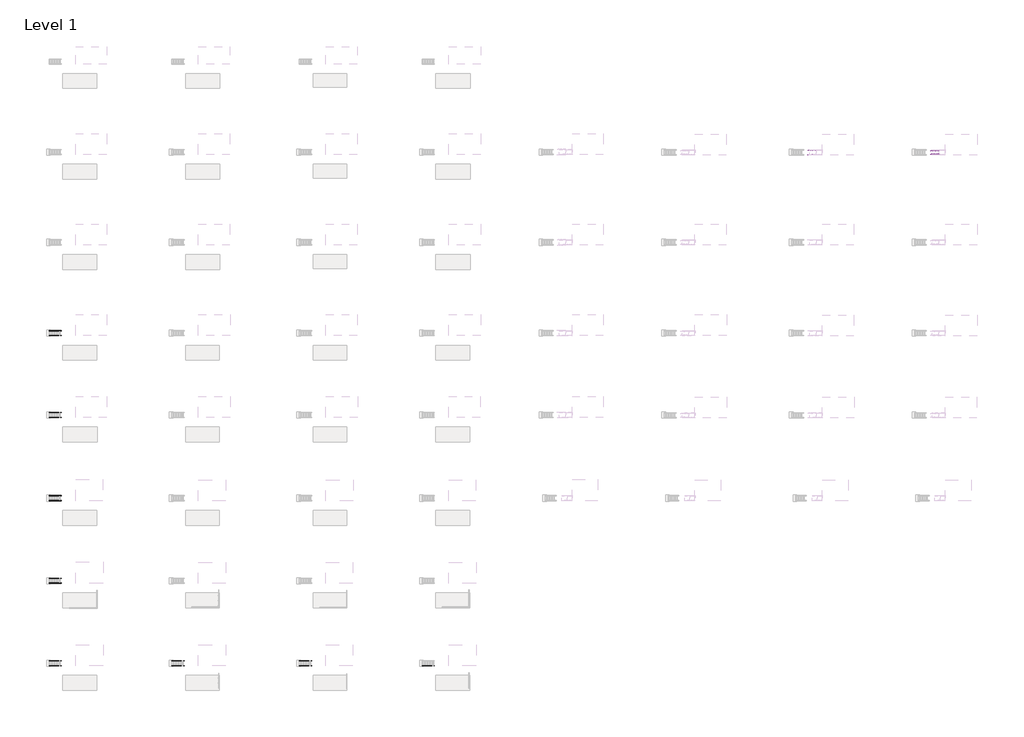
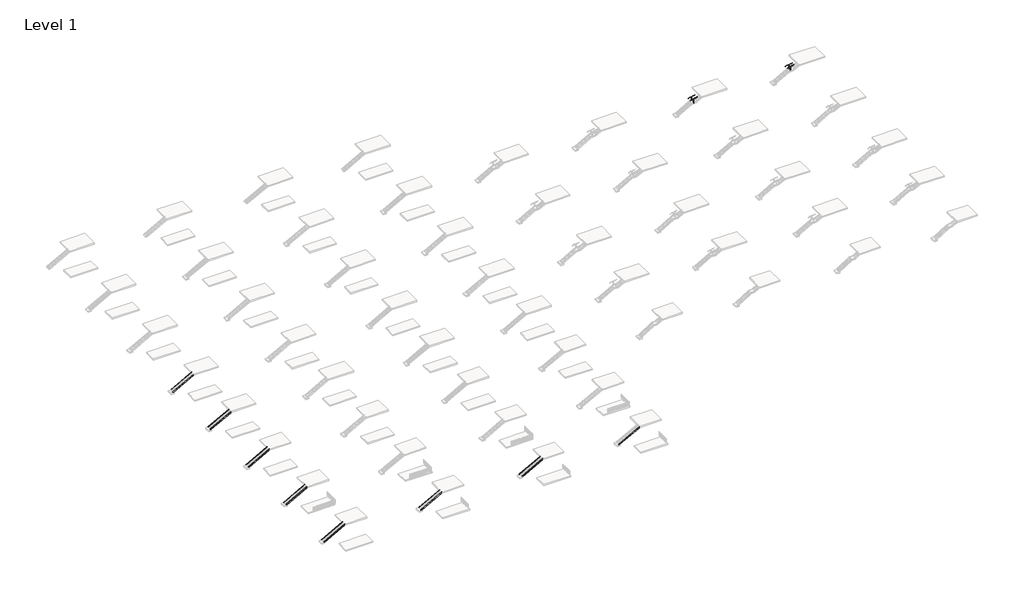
# One storey, part 24 of 26: 15 members, 4 railings.
"""IFC4 building model written with IfcOpenShell, lengths in millimetres."""

from ifc_helpers import new_model, si_unit, point, frame, frame_2d, origin, place, context, project, spatial, polyline, circle_curve, ellipse_curve, trimmed, segment, composite_curve, outline, extrude, faceted_brep, element, save
from ifc_brep_helpers import plane_surface, cylinder_surface, advanced_brep

model = new_model("IFC4")

# Units and contexts
model_context = context("Model", 3, world=origin())
ifc_project = project(units=[si_unit("LENGTHUNIT", "METRE", prefix="MILLI")], contexts=[model_context])

# Site, building, storey
site = spatial("IfcSite", under=ifc_project)
building = spatial("IfcBuilding", under=site)
storey = spatial("IfcBuildingStorey", under=building, Name="Level 1", Elevation=0.0)

# Members
placement = place(None, origin())
element("IfcMember", 1, ObjectType="Stringer - 2\" Width", at=placement, inside=storey, context=model_context, shape_type="SweptSolid", body=[
    extrude(outline(polyline([(177.1989729, -14498.2569957), (0.0, -14498.2569957), (0.0, -14213.1213612), (2753.9260175, -9164.2569957), (3086.6535184, -9164.2569957), (177.1989729, -14498.2569957)])), frame((0.0, -67879.4034511, 0.0), z_axis=(0.0, 1.0, 0.0), x_axis=(0.0, 0.0, 1.0)), (0.0, 0.0, 1.0), 50.8),
])
element("IfcMember", 2, ObjectType="Stringer - 2\" Width", at=placement, inside=storey, context=model_context, shape_type="SweptSolid", body=[
    extrude(outline(polyline([(177.1989729, -14498.2569957), (0.0, -14498.2569957), (0.0, -14213.1213612), (2753.9260175, -9164.2569957), (3086.6535184, -9164.2569957), (177.1989729, -14498.2569957)])), frame((0.0, -68844.6034511, 0.0), z_axis=(0.0, 1.0, 0.0), x_axis=(0.0, 0.0, 1.0)), (0.0, 0.0, 1.0), 50.8),
])
element("IfcMember", 3, ObjectType="Stringer - 2\" Width", at=placement, inside=storey, context=model_context, shape_type="SweptSolid", body=[
    extrude(outline(polyline([(177.1989729, -14498.2569957), (0.0, -14498.2569957), (0.0, -14213.1213612), (2753.9260175, -9164.2569957), (3086.6535184, -9164.2569957), (177.1989729, -14498.2569957)])), frame((0.0, -51279.2426165, 0.0), z_axis=(0.0, 1.0, 0.0), x_axis=(0.0, 0.0, 1.0)), (0.0, 0.0, 1.0), 50.8),
])
element("IfcMember", 4, ObjectType="Stringer - 2\" Width", at=placement, inside=storey, context=model_context, shape_type="SweptSolid", body=[
    extrude(outline(polyline([(177.1989729, -14498.2569957), (0.0, -14498.2569957), (0.0, -14213.1213612), (2753.9260175, -9164.2569957), (3086.6535184, -9164.2569957), (177.1989729, -14498.2569957)])), frame((0.0, -52244.4426165, 0.0), z_axis=(0.0, 1.0, 0.0), x_axis=(0.0, 0.0, 1.0)), (0.0, 0.0, 1.0), 50.8),
])
element("IfcMember", 5, ObjectType="Stringer - 2\" Width", at=placement, inside=storey, context=model_context, shape_type="SweptSolid", body=[
    extrude(outline(polyline([(177.1989729, -14498.2569957), (0.0, -14498.2569957), (0.0, -14213.1213612), (2753.9260175, -9164.2569957), (3086.6535184, -9164.2569957), (177.1989729, -14498.2569957)])), frame((0.0, -34679.081782, 0.0), z_axis=(0.0, 1.0, 0.0), x_axis=(0.0, 0.0, 1.0)), (0.0, 0.0, 1.0), 50.8),
])
element("IfcMember", 6, ObjectType="Stringer - 2\" Width", at=placement, inside=storey, context=model_context, shape_type="SweptSolid", body=[
    extrude(outline(polyline([(177.1989729, -14498.2569957), (0.0, -14498.2569957), (0.0, -14213.1213612), (2753.9260175, -9164.2569957), (3086.6535184, -9164.2569957), (177.1989729, -14498.2569957)])), frame((0.0, -35644.281782, 0.0), z_axis=(0.0, 1.0, 0.0), x_axis=(0.0, 0.0, 1.0)), (0.0, 0.0, 1.0), 50.8),
])
element("IfcMember", 7, ObjectType="Stringer - 2\" Width", at=placement, inside=storey, context=model_context, shape_type="SweptSolid", body=[
    extrude(outline(polyline([(177.1989729, -14498.2569957), (0.0, -14498.2569957), (0.0, -14213.1213612), (2753.9260175, -9164.2569957), (3086.6535184, -9164.2569957), (177.1989729, -14498.2569957)])), frame((0.0, -17954.2990002, 0.0), z_axis=(0.0, 1.0, 0.0), x_axis=(0.0, 0.0, 1.0)), (0.0, 0.0, 1.0), 50.8),
])
element("IfcMember", 8, ObjectType="Stringer - 2\" Width", at=placement, inside=storey, context=model_context, shape_type="SweptSolid", body=[
    extrude(outline(polyline([(177.1989729, -14498.2569957), (0.0, -14498.2569957), (0.0, -14213.1213612), (2753.9260175, -9164.2569957), (3086.6535184, -9164.2569957), (177.1989729, -14498.2569957)])), frame((0.0, -18919.4990002, 0.0), z_axis=(0.0, 1.0, 0.0), x_axis=(0.0, 0.0, 1.0)), (0.0, 0.0, 1.0), 50.8),
])
element("IfcMember", 9, ObjectType="Stringer - 2\" Width", at=placement, inside=storey, context=model_context, shape_type="SweptSolid", body=[
    extrude(outline(polyline([(177.1989729, -14498.2569957), (0.0, -14498.2569957), (0.0, -14213.1213612), (2753.9260175, -9164.2569957), (3086.6535184, -9164.2569957), (177.1989729, -14498.2569957)])), frame((0.0, -1486.3855758, 0.0), z_axis=(0.0, 1.0, 0.0), x_axis=(0.0, 0.0, 1.0)), (0.0, 0.0, 1.0), 50.8),
])
element("IfcMember", 10, ObjectType="Stringer - 2\" Width", at=placement, inside=storey, context=model_context, shape_type="SweptSolid", body=[
    extrude(outline(polyline([(177.1989729, -14498.2569957), (0.0, -14498.2569957), (0.0, -14213.1213612), (2753.9260175, -9164.2569957), (3086.6535184, -9164.2569957), (177.1989729, -14498.2569957)])), frame((0.0, -2451.5855758, 0.0), z_axis=(0.0, 1.0, 0.0), x_axis=(0.0, 0.0, 1.0)), (0.0, 0.0, 1.0), 50.8),
])
element("IfcMember", 11, ObjectType="Stringer - 2\" Width", at=placement, inside=storey, context=model_context, shape_type="SweptSolid", body=[
    extrude(outline(polyline([(177.1989729, 10178.7167764), (0.0, 10178.7167764), (0.0, 10463.8524109), (2753.9260175, 15512.7167764), (3086.6535184, 15512.7167764), (177.1989729, 10178.7167764)])), frame((0.0, -67879.4034511, 0.0), z_axis=(0.0, 1.0, 0.0), x_axis=(0.0, 0.0, 1.0)), (0.0, 0.0, 1.0), 50.8),
])
element("IfcMember", 12, ObjectType="Stringer - 2\" Width", at=placement, inside=storey, context=model_context, shape_type="SweptSolid", body=[
    extrude(outline(polyline([(177.1989729, 10178.7167764), (0.0, 10178.7167764), (0.0, 10463.8524109), (2753.9260175, 15512.7167764), (3086.6535184, 15512.7167764), (177.1989729, 10178.7167764)])), frame((0.0, -68844.6034511, 0.0), z_axis=(0.0, 1.0, 0.0), x_axis=(0.0, 0.0, 1.0)), (0.0, 0.0, 1.0), 50.8),
])
element("IfcMember", 13, ObjectType="Stringer - 2\" Width", at=placement, inside=storey, context=model_context, shape_type="SweptSolid", body=[
    extrude(outline(polyline([(177.1989729, 35781.9167764), (0.0, 35781.9167764), (0.0, 36067.0524109), (2753.9260175, 41115.9167764), (3086.6535184, 41115.9167764), (177.1989729, 35781.9167764)])), frame((0.0, -67879.4034511, 0.0), z_axis=(0.0, 1.0, 0.0), x_axis=(0.0, 0.0, 1.0)), (0.0, 0.0, 1.0), 50.8),
])
element("IfcMember", 14, ObjectType="Stringer - 2\" Width", at=placement, inside=storey, context=model_context, shape_type="SweptSolid", body=[
    extrude(outline(polyline([(177.1989729, 35781.9167764), (0.0, 35781.9167764), (0.0, 36067.0524109), (2753.9260175, 41115.9167764), (3086.6535184, 41115.9167764), (177.1989729, 35781.9167764)])), frame((0.0, -68844.6034511, 0.0), z_axis=(0.0, 1.0, 0.0), x_axis=(0.0, 0.0, 1.0)), (0.0, 0.0, 1.0), 50.8),
])
element("IfcMember", 15, ObjectType="Stringer - 2\" Width", at=placement, inside=storey, context=model_context, shape_type="SweptSolid", body=[
    extrude(outline(polyline([(177.1989729, 60458.8905484), (0.0, 60458.8905484), (0.0, 60744.026183), (2753.9260175, 65792.8905484), (3086.6535184, 65792.8905484), (177.1989729, 60458.8905484)])), frame((0.0, -68844.6034511, 0.0), z_axis=(0.0, 1.0, 0.0), x_axis=(0.0, 0.0, 1.0)), (0.0, 0.0, 1.0), 50.8),
])

# Railings
element("IfcRailing", 16, ObjectType="VIVA-CUBE-CableNet Infill-Panel-Weld Mount-Stair-Landing", at=placement, inside=storey, context=model_context, shape_type="SolidModel", body=[
    advanced_brep(
    [(139648.3132982, 34790.7265585, 3385.2312362), (139648.3132982, 34841.5265585, 3385.2312362), (139378.8336349, 34841.5265585, 3231.2428571), (139378.8336349, 34790.7265585, 3231.2428571), (137924.2882982, 34790.7265585, 3009.6740933), (137924.2882982, 34841.5265585, 3009.6740933), (138312.0336349, 34790.7265585, 3231.2428571), (138312.0336349, 34841.5265585, 3231.2428571)],
    [
        (0, 1, ellipse_curve(frame((139648.3132982, 34816.1265585, 3385.2312362), z_axis=(1.0, 0.0, 0.0), x_axis=(0.0, 0.0, -1.0)), 29.2544781, 25.4)),
        (1, 0, ellipse_curve(frame((139648.3132982, 34816.1265585, 3385.2312362), z_axis=(1.0, 0.0, 0.0), x_axis=(0.0, 0.0, -1.0)), 29.2544781, 25.4)),
        (2, 3, ellipse_curve(frame((139378.8336349, 34816.1265585, 3231.2428571), z_axis=(0.9664996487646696, 0.0, 0.2566679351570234), x_axis=(0.25666793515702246, 0.0, -0.9664996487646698)), 26.2804027, 25.4)),
        (3, 0),
        (1, 2),
        (3, 2, ellipse_curve(frame((139378.8336349, 34816.1265585, 3231.2428571), z_axis=(0.9664996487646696, 0.0, 0.2566679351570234), x_axis=(0.25666793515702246, 0.0, -0.9664996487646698)), 26.2804027, 25.4)),
        (4, 5, ellipse_curve(frame((137924.2882982, 34816.1265585, 3009.6740933), z_axis=(-1.0, 0.0, 0.0), x_axis=(0.0, 0.0, -0.9999999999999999)), 29.2544781, 25.4)),
        (5, 4, ellipse_curve(frame((137924.2882982, 34816.1265585, 3009.6740933), z_axis=(-1.0, 0.0, 0.0), x_axis=(0.0, 0.0, -0.9999999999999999)), 29.2544781, 25.4)),
        (4, 6),
        (6, 7, ellipse_curve(frame((138312.0336349, 34816.1265585, 3231.2428571), z_axis=(-0.966499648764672, 0.0, -0.25666793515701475), x_axis=(0.25666793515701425, 0.0, -0.9664996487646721)), 26.2804027, 25.4)),
        (7, 5),
        (7, 6, ellipse_curve(frame((138312.0336349, 34816.1265585, 3231.2428571), z_axis=(-0.966499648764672, 0.0, -0.25666793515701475), x_axis=(0.25666793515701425, 0.0, -0.9664996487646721)), 26.2804027, 25.4)),
        (6, 3),
        (2, 7),
    ],
    [
        plane_surface(frame((139648.3132982, 34816.1265585, 3414.4857143), z_axis=(1.0, 0.0, 0.0), x_axis=(0.0, 1.0, 0.0))),
        cylinder_surface(frame((139384.6902273, 34816.1265585, 3234.5894813), z_axis=(-0.8682431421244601, 0.0, -0.4961389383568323), x_axis=(0.0, 1.0, 0.0)), 25.4),
        plane_surface(frame((137924.2882982, 34816.1265585, 3038.9285714), z_axis=(-1.0, 0.0, 0.0), x_axis=(0.0, 1.0, 0.0))),
        cylinder_surface(frame((137936.8902273, 34816.1265585, 3016.8751956), z_axis=(-0.868243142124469, 0.0, -0.49613893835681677), x_axis=(0.0, 1.0, 0.0)), 25.4),
        cylinder_surface(frame((138305.2882982, 34816.1265585, 3231.2428571), z_axis=(-1.0, 0.0, 0.0), x_axis=(0.0, 1.0, 0.0)), 25.4),
    ],
    [
        (0, [[1, 2]]),
        (1, [[3, 4, -2, 5]]),
        (1, [[6, -5, -1, -4]]),
        (2, [[7, 8]]),
        (3, [[-7, 9, 10, 11]]),
        (3, [[-8, -11, 12, -9]]),
        (4, [[-10, 13, -3, 14]]),
        (4, [[-12, -14, -6, -13]]),
    ],
),
    extrude(outline(composite_curve([segment(trimmed(circle_curve(frame_2d((0.0, 7.0)), 7.0), [point((0.0, 14.0))], [point((0.0, 0.0))], False, "CARTESIAN"), True, "CONTINUOUS"), segment(trimmed(circle_curve(frame_2d((0.0, 7.0)), 7.0), [point((0.0, 0.0))], [point((0.0, 14.0))], False, "CARTESIAN"), True, "CONTINUOUS")], self_intersect=False)), frame((138786.2022377, 34901.8103842, 2972.3156836), z_axis=(0.0012555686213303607, 0.0, 0.999999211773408), x_axis=(0.999999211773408, 0.0, -0.0012555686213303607)), (0.0, 0.0, 1.0), 75.97),
    extrude(outline(composite_curve([segment(trimmed(circle_curve(frame_2d((34910.0583163, 3070.2618193)), 19.05), [point((34896.528728, 3056.8509005))], [point((34923.5879045, 3056.8509005))], True, "CARTESIAN"), True, "CONTINUOUS"), segment(polyline([(34923.5879045, 3056.8509005), (34924.6142941, 3055.8335135)]), True, "CONTINUOUS"), segment(trimmed(circle_curve(frame_2d((34923.5583163, 3054.7681916)), 1.5), [point((34924.6142941, 3055.8335135))], [point((34924.5437177, 3053.6372698))], False, "CARTESIAN"), True, "CONTINUOUS"), segment(trimmed(circle_curve(frame_2d((34910.0583163, 3070.2618193)), 22.05), [point((34924.5437177, 3053.6372698))], [point((34895.5729148, 3053.6372698))], False, "CARTESIAN"), True, "CONTINUOUS"), segment(trimmed(circle_curve(frame_2d((34896.5583163, 3054.7681916)), 1.5), [point((34895.5729148, 3053.6372698))], [point((34895.5023384, 3055.8335135))], False, "CARTESIAN"), True, "CONTINUOUS"), segment(polyline([(34895.5023384, 3055.8335135), (34896.528728, 3056.8509005)]), True, "CONTINUOUS")], self_intersect=False)), frame((138749.8508529, 0.0, 0.0), z_axis=(1.0, 0.0, 0.0), x_axis=(0.0, 1.0, 0.0)), (0.0, 0.0, 1.0), 74.5229187),
    extrude(outline(composite_curve([segment(trimmed(circle_curve(frame_2d((2999.1922796, 138786.2621412)), 12.5), [point((2999.1922796, 138773.7621412))], [point((2999.1922796, 138798.7621412))], False, "CARTESIAN"), True, "CONTINUOUS"), segment(trimmed(circle_curve(frame_2d((2999.1922796, 138786.2621412)), 12.5), [point((2999.1922796, 138798.7621412))], [point((2999.1922796, 138773.7621412))], False, "CARTESIAN"), True, "CONTINUOUS")], self_intersect=False)), frame((0.0, 34841.5265585, 0.0), z_axis=(0.0, 1.0, 0.0), x_axis=(0.0, 0.0, 1.0)), (0.0, 0.0, 1.0), 82.061346),
    extrude(outline(composite_curve([segment(trimmed(circle_curve(frame_2d((2999.1922796, 138786.2621412)), 12.5), [point((2999.1922796, 138798.7621412))], [point((2999.1922796, 138773.7621412))], False, "CARTESIAN"), True, "CONTINUOUS"), segment(trimmed(circle_curve(frame_2d((2999.1922796, 138786.2621412)), 12.5), [point((2999.1922796, 138773.7621412))], [point((2999.1922796, 138798.7621412))], False, "CARTESIAN"), True, "CONTINUOUS")], self_intersect=False)), frame((0.0, 34783.1065585, 0.0), z_axis=(0.0, 1.0, 0.0), x_axis=(0.0, 0.0, 1.0)), (0.0, 0.0, 1.0), 7.62),
    faceted_brep([(138773.5976232, 34828.8265585, 3174.433132), (138773.5976232, 34820.0953085, 3174.433132), (138798.9976232, 34820.0953085, 3174.433132), (138798.9976232, 34828.8265585, 3174.433132), (138798.9976232, 34803.4265585, 3174.433132), (138798.9976232, 34812.1578085, 3174.433132), (138773.5976232, 34812.1578085, 3174.433132), (138773.5976232, 34803.4265585, 3174.433132), (138760.8976232, 34841.5265585, 3118.2776425), (138760.8976232, 34790.7265585, 3118.2776425), (138811.6976232, 34841.5265585, 3118.2776425), (138811.6976232, 34790.7265585, 3118.2776425), (138760.8976232, 34841.5265585, 2088.2428571), (138811.6976232, 34841.5265585, 2088.2428571), (138811.6976232, 34790.7265585, 2088.2428571), (138760.8976232, 34790.7265585, 2088.2428571), (138798.9976232, 34812.1578085, 3186.4734584), (138798.9976232, 34820.0953085, 3186.4734584), (138773.5976232, 34820.0953085, 3186.4734584), (138773.5976232, 34812.1578085, 3186.4734584)], [[[0, 1, 2, 3]], [[4, 5, 6, 7]], [[8, 9, 7, 6, 1, 0]], [[3, 10, 8, 0]], [[3, 2, 5, 4, 11, 10]], [[7, 9, 11, 4]], [[12, 13, 14, 15]], [[12, 8, 10, 13]], [[13, 10, 11, 14]], [[14, 11, 9, 15]], [[15, 9, 8, 12]], [[16, 17, 18, 19]], [[19, 6, 5, 16]], [[18, 1, 6, 19]], [[17, 2, 1, 18]], [[16, 5, 2, 17]]]),
    extrude(outline(composite_curve([segment(trimmed(circle_curve(frame_2d((34816.2232869, 3231.2861755)), 25.4345159), [point((34803.659484, 3209.1713512))], [point((34828.6185206, 3209.0764304))], True, "CARTESIAN"), True, "CONTINUOUS"), segment(trimmed(circle_curve(frame_2d((34829.8631737, 3206.5739456)), 2.7949225), [point((34828.6185206, 3209.0764304))], [point((34831.3404788, 3204.2013603))], False, "CARTESIAN"), True, "CONTINUOUS"), segment(trimmed(circle_curve(frame_2d((34816.0898238, 3232.0488022)), 31.75), [point((34831.3404788, 3204.2013603))], [point((34799.8235865, 3204.7821187))], False, "CARTESIAN"), True, "CONTINUOUS"), segment(trimmed(circle_curve(frame_2d((34802.1119263, 3206.6530378)), 2.9558141), [point((34799.8235865, 3204.7821187))], [point((34803.659484, 3209.1713512))], False, "CARTESIAN"), True, "CONTINUOUS")], self_intersect=False)), frame((138741.0602232, 0.0, 0.0), z_axis=(1.0, 0.0, 0.0), x_axis=(0.0, 1.0, 0.0)), (0.0, 0.0, 1.0), 90.4748),
    extrude(outline(composite_curve([segment(trimmed(circle_curve(frame_2d((3186.1434593, 138759.2297084)), 14.3679149), [point((3200.5113742, 138759.2297084))], [point((3186.1434593, 138773.5976232))], True, "CARTESIAN"), True, "CONTINUOUS"), segment(trimmed(circle_curve(frame_2d((3186.1434593, 138786.2976232)), 12.7), [point((3186.1434593, 138773.5976232))], [point((3186.1434593, 138798.9976232))], False, "CARTESIAN"), True, "CONTINUOUS"), segment(trimmed(circle_curve(frame_2d((3186.1434593, 138813.3655381)), 14.3679149), [point((3186.1434593, 138798.9976232))], [point((3200.5113742, 138813.3655381))], True, "CARTESIAN"), True, "CONTINUOUS"), segment(polyline([(3200.5113742, 138813.3655381), (3200.5113742, 138759.2297084)]), True, "CONTINUOUS")], self_intersect=False)), frame((0.0, 34813.5865585, 0.0), z_axis=(0.0, 1.0, 0.0), x_axis=(0.0, 0.0, 1.0)), (0.0, 0.0, 1.0), 5.08),
])
element("IfcRailing", 17, ObjectType="VIVA-CUBE-CableNet Infill-Panel-Core Mount-Stair-Landing", at=placement, inside=storey, context=model_context, shape_type="SolidModel", body=[
    advanced_brep(
    [(162601.2620703, 34727.2265585, 3009.6740933), (162601.2620703, 34778.0265585, 3009.6740933), (162989.007407, 34727.2265585, 3231.2428571), (162989.007407, 34778.0265585, 3231.2428571), (164325.2870703, 34727.2265585, 3385.2312362), (164325.2870703, 34778.0265585, 3385.2312362), (164055.807407, 34778.0265585, 3231.2428571), (164055.807407, 34727.2265585, 3231.2428571)],
    [
        (0, 1, ellipse_curve(frame((162601.2620703, 34752.6265585, 3009.6740933), z_axis=(-1.0, 0.0, 0.0), x_axis=(0.0, 0.0, -1.0)), 29.2544781, 25.4)),
        (1, 0, ellipse_curve(frame((162601.2620703, 34752.6265585, 3009.6740933), z_axis=(-1.0, 0.0, 0.0), x_axis=(0.0, 0.0, -1.0)), 29.2544781, 25.4)),
        (0, 2),
        (2, 3, ellipse_curve(frame((162989.007407, 34752.6265585, 3231.2428571), z_axis=(-0.9664996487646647, 0.0, -0.25666793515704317), x_axis=(0.25666793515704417, 0.0, -0.9664996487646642)), 26.2804027, 25.4)),
        (3, 1),
        (3, 2, ellipse_curve(frame((162989.007407, 34752.6265585, 3231.2428571), z_axis=(-0.9664996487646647, 0.0, -0.25666793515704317), x_axis=(0.25666793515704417, 0.0, -0.9664996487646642)), 26.2804027, 25.4)),
        (4, 5, ellipse_curve(frame((164325.2870703, 34752.6265585, 3385.2312362), z_axis=(1.0, 0.0, 0.0), x_axis=(0.0, 0.0, -1.0)), 29.2544781, 25.4)),
        (5, 4, ellipse_curve(frame((164325.2870703, 34752.6265585, 3385.2312362), z_axis=(1.0, 0.0, 0.0), x_axis=(0.0, 0.0, -1.0)), 29.2544781, 25.4)),
        (6, 7, ellipse_curve(frame((164055.807407, 34752.6265585, 3231.2428571), z_axis=(0.966499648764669, 0.0, 0.25666793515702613), x_axis=(0.25666793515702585, 0.0, -0.9664996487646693)), 26.2804027, 25.4)),
        (7, 4),
        (5, 6),
        (7, 6, ellipse_curve(frame((164055.807407, 34752.6265585, 3231.2428571), z_axis=(0.966499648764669, 0.0, 0.25666793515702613), x_axis=(0.25666793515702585, 0.0, -0.9664996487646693)), 26.2804027, 25.4)),
        (2, 7),
        (6, 3),
    ],
    [
        plane_surface(frame((162601.2620703, 34752.6265585, 3038.9285714), z_axis=(-1.0, 0.0, 0.0), x_axis=(0.0, 1.0, 0.0))),
        cylinder_surface(frame((162613.8639993, 34752.6265585, 3016.8751956), z_axis=(-0.8682431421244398, 0.0, -0.4961389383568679), x_axis=(0.0, 1.0, 0.0)), 25.4),
        plane_surface(frame((164325.2870703, 34752.6265585, 3414.4857143), z_axis=(1.0, 0.0, 0.0), x_axis=(0.0, 1.0, 0.0))),
        cylinder_surface(frame((164061.6639993, 34752.6265585, 3234.5894813), z_axis=(-0.8682431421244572, 0.0, -0.49613893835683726), x_axis=(0.0, 1.0, 0.0)), 25.4),
        cylinder_surface(frame((162982.2620703, 34752.6265585, 3231.2428571), z_axis=(-1.0, 0.0, 0.0), x_axis=(0.0, 1.0, 0.0)), 25.4),
    ],
    [
        (0, [[1, 2]]),
        (1, [[-1, 3, 4, 5]]),
        (1, [[-2, -5, 6, -3]]),
        (2, [[7, 8]]),
        (3, [[9, 10, -8, 11]]),
        (3, [[12, -11, -7, -10]]),
        (4, [[-4, 13, -9, 14]]),
        (4, [[-6, -14, -12, -13]]),
    ],
),
    extrude(outline(composite_curve([segment(trimmed(circle_curve(frame_2d((0.0, 7.0)), 7.0), [point((0.0, 14.0))], [point((0.0, 0.0))], False, "CARTESIAN"), True, "CONTINUOUS"), segment(trimmed(circle_curve(frame_2d((0.0, 7.0)), 7.0), [point((0.0, 0.0))], [point((0.0, 14.0))], False, "CARTESIAN"), True, "CONTINUOUS")], self_intersect=False)), frame((163463.3731308, 34666.9427327, 2972.3156836), z_axis=(-0.0012555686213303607, 0.0, 0.999999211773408), x_axis=(-0.999999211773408, 0.0, -0.0012555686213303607)), (0.0, 0.0, 1.0), 75.97),
    extrude(outline(composite_curve([segment(polyline([(34672.2243889, 3056.8509005), (34673.2507785, 3055.8335135)]), True, "CONTINUOUS"), segment(trimmed(circle_curve(frame_2d((34672.1948007, 3054.7681916)), 1.5), [point((34673.2507785, 3055.8335135))], [point((34673.1802021, 3053.6372698))], False, "CARTESIAN"), True, "CONTINUOUS"), segment(trimmed(circle_curve(frame_2d((34658.6948007, 3070.2618193)), 22.05), [point((34673.1802021, 3053.6372698))], [point((34644.2093992, 3053.6372698))], False, "CARTESIAN"), True, "CONTINUOUS"), segment(trimmed(circle_curve(frame_2d((34645.1948007, 3054.7681916)), 1.5), [point((34644.2093992, 3053.6372698))], [point((34644.1388228, 3055.8335135))], False, "CARTESIAN"), True, "CONTINUOUS"), segment(polyline([(34644.1388228, 3055.8335135), (34645.1652124, 3056.8509005)]), True, "CONTINUOUS"), segment(trimmed(circle_curve(frame_2d((34658.6948007, 3070.2618193)), 19.05), [point((34645.1652124, 3056.8509005))], [point((34672.2243889, 3056.8509005))], True, "CARTESIAN"), True, "CONTINUOUS")], self_intersect=False)), frame((163425.2015969, 0.0, 0.0), z_axis=(1.0, 0.0, 0.0), x_axis=(0.0, 1.0, 0.0)), (0.0, 0.0, 1.0), 74.5229187),
    extrude(outline(composite_curve([segment(trimmed(circle_curve(frame_2d((2999.1922796, 163463.3132273)), 12.5), [point((2999.1922796, 163475.8132273))], [point((2999.1922796, 163450.8132273))], False, "CARTESIAN"), True, "CONTINUOUS"), segment(trimmed(circle_curve(frame_2d((2999.1922796, 163463.3132273)), 12.5), [point((2999.1922796, 163450.8132273))], [point((2999.1922796, 163475.8132273))], False, "CARTESIAN"), True, "CONTINUOUS")], self_intersect=False)), frame((0.0, 34645.1652124, 0.0), z_axis=(0.0, 1.0, 0.0), x_axis=(0.0, 0.0, 1.0)), (0.0, 0.0, 1.0), 82.061346),
    extrude(outline(composite_curve([segment(trimmed(circle_curve(frame_2d((2999.1922796, 163463.3132273)), 12.5), [point((2999.1922796, 163450.8132273))], [point((2999.1922796, 163475.8132273))], False, "CARTESIAN"), True, "CONTINUOUS"), segment(trimmed(circle_curve(frame_2d((2999.1922796, 163463.3132273)), 12.5), [point((2999.1922796, 163475.8132273))], [point((2999.1922796, 163450.8132273))], False, "CARTESIAN"), True, "CONTINUOUS")], self_intersect=False)), frame((0.0, 34778.0265585, 0.0), z_axis=(0.0, 1.0, 0.0), x_axis=(0.0, 0.0, 1.0)), (0.0, 0.0, 1.0), 7.62),
    extrude(outline(composite_curve([segment(trimmed(circle_curve(frame_2d((163463.2777453, 34752.6265585)), 63.5), [point((163463.2777453, 34816.1265585))], [point((163463.2777453, 34689.1265585))], False, "CARTESIAN"), True, "CONTINUOUS"), segment(trimmed(circle_curve(frame_2d((163463.2777453, 34752.6265585)), 63.5), [point((163463.2777453, 34689.1265585))], [point((163463.2777453, 34816.1265585))], False, "CARTESIAN"), True, "CONTINUOUS")], self_intersect=False), holes=[composite_curve([segment(trimmed(circle_curve(frame_2d((163427.8080014, 34788.0963024)), 4.7625), [point((163427.8080014, 34792.8588024))], [point((163427.8080014, 34783.3338024))], True, "CARTESIAN"), True, "CONTINUOUS"), segment(trimmed(circle_curve(frame_2d((163427.8080014, 34788.0963024)), 4.7625), [point((163427.8080014, 34783.3338024))], [point((163427.8080014, 34792.8588024))], True, "CARTESIAN"), True, "CONTINUOUS")], self_intersect=False), composite_curve([segment(trimmed(circle_curve(frame_2d((163427.8080014, 34717.1568146)), 4.7625), [point((163427.8080014, 34721.9193146))], [point((163427.8080014, 34712.3943146))], True, "CARTESIAN"), True, "CONTINUOUS"), segment(trimmed(circle_curve(frame_2d((163427.8080014, 34717.1568146)), 4.7625), [point((163427.8080014, 34712.3943146))], [point((163427.8080014, 34721.9193146))], True, "CARTESIAN"), True, "CONTINUOUS")], self_intersect=False), composite_curve([segment(trimmed(circle_curve(frame_2d((163498.7474892, 34788.0963024)), 4.7625), [point((163498.7474892, 34792.8588024))], [point((163498.7474892, 34783.3338024))], True, "CARTESIAN"), True, "CONTINUOUS"), segment(trimmed(circle_curve(frame_2d((163498.7474892, 34788.0963024)), 4.7625), [point((163498.7474892, 34783.3338024))], [point((163498.7474892, 34792.8588024))], True, "CARTESIAN"), True, "CONTINUOUS")], self_intersect=False), composite_curve([segment(trimmed(circle_curve(frame_2d((163498.7474892, 34717.1568146)), 4.7625), [point((163498.7474892, 34721.9193146))], [point((163498.7474892, 34712.3943146))], True, "CARTESIAN"), True, "CONTINUOUS"), segment(trimmed(circle_curve(frame_2d((163498.7474892, 34717.1568146)), 4.7625), [point((163498.7474892, 34712.3943146))], [point((163498.7474892, 34721.9193146))], True, "CARTESIAN"), True, "CONTINUOUS")], self_intersect=False)]), frame((0.0, 0.0, 2177.1428571), z_axis=(0.0, 0.0, 1.0), x_axis=(1.0, 0.0, 0.0)), (0.0, 0.0, 1.0), 25.4),
    faceted_brep([(163475.9777453, 34739.9265585, 3174.433132), (163475.9777453, 34748.6578085, 3174.433132), (163450.5777453, 34748.6578085, 3174.433132), (163450.5777453, 34739.9265585, 3174.433132), (163450.5777453, 34765.3265585, 3174.433132), (163450.5777453, 34756.5953085, 3174.433132), (163475.9777453, 34756.5953085, 3174.433132), (163475.9777453, 34765.3265585, 3174.433132), (163488.6777453, 34727.2265585, 3118.2776425), (163488.6777453, 34778.0265585, 3118.2776425), (163437.8777453, 34727.2265585, 3118.2776425), (163437.8777453, 34778.0265585, 3118.2776425), (163488.6777453, 34727.2265585, 2088.2428571), (163437.8777453, 34727.2265585, 2088.2428571), (163437.8777453, 34778.0265585, 2088.2428571), (163488.6777453, 34778.0265585, 2088.2428571), (163450.5777453, 34756.5953085, 3186.4734584), (163450.5777453, 34748.6578085, 3186.4734584), (163475.9777453, 34748.6578085, 3186.4734584), (163475.9777453, 34756.5953085, 3186.4734584)], [[[0, 1, 2, 3]], [[4, 5, 6, 7]], [[8, 9, 7, 6, 1, 0]], [[3, 10, 8, 0]], [[3, 2, 5, 4, 11, 10]], [[7, 9, 11, 4]], [[12, 13, 14, 15]], [[12, 8, 10, 13]], [[13, 10, 11, 14]], [[14, 11, 9, 15]], [[15, 9, 8, 12]], [[16, 17, 18, 19]], [[19, 6, 5, 16]], [[18, 1, 6, 19]], [[17, 2, 1, 18]], [[16, 5, 2, 17]]]),
    extrude(outline(composite_curve([segment(trimmed(circle_curve(frame_2d((34766.6411907, 3206.6530378)), 2.9558141), [point((34765.093633, 3209.1713512))], [point((34768.9295304, 3204.7821187))], False, "CARTESIAN"), True, "CONTINUOUS"), segment(trimmed(circle_curve(frame_2d((34752.6632932, 3232.0488022)), 31.75), [point((34768.9295304, 3204.7821187))], [point((34737.4126382, 3204.2013603))], False, "CARTESIAN"), True, "CONTINUOUS"), segment(trimmed(circle_curve(frame_2d((34738.8899432, 3206.5739456)), 2.7949225), [point((34737.4126382, 3204.2013603))], [point((34740.1345964, 3209.0764304))], False, "CARTESIAN"), True, "CONTINUOUS"), segment(trimmed(circle_curve(frame_2d((34752.5298301, 3231.2861755)), 25.4345159), [point((34740.1345964, 3209.0764304))], [point((34765.093633, 3209.1713512))], True, "CARTESIAN"), True, "CONTINUOUS")], self_intersect=False)), frame((163418.0403453, 0.0, 0.0), z_axis=(1.0, 0.0, 0.0), x_axis=(0.0, 1.0, 0.0)), (0.0, 0.0, 1.0), 90.4748),
    extrude(outline(composite_curve([segment(polyline([(3200.5113742, 163490.3456602), (3200.5113742, 163436.2098304)]), True, "CONTINUOUS"), segment(trimmed(circle_curve(frame_2d((3186.1434593, 163436.2098304)), 14.3679149), [point((3200.5113742, 163436.2098304))], [point((3186.1434593, 163450.5777453))], True, "CARTESIAN"), True, "CONTINUOUS"), segment(trimmed(circle_curve(frame_2d((3186.1434593, 163463.2777453)), 12.7), [point((3186.1434593, 163450.5777453))], [point((3186.1434593, 163475.9777453))], False, "CARTESIAN"), True, "CONTINUOUS"), segment(trimmed(circle_curve(frame_2d((3186.1434593, 163490.3456602)), 14.3679149), [point((3186.1434593, 163475.9777453))], [point((3200.5113742, 163490.3456602))], True, "CARTESIAN"), True, "CONTINUOUS")], self_intersect=False)), frame((0.0, 34750.0865585, 0.0), z_axis=(0.0, 1.0, 0.0), x_axis=(0.0, 0.0, 1.0)), (0.0, 0.0, 1.0), 5.08),
])
element("IfcRailing", 18, ObjectType="VIVA-CUBE-CableNet Infill-Panel-Weld Mount-Stair-Landing", at=placement, inside=storey, context=model_context, shape_type="SolidModel", body=[
    advanced_brep(
    [(137924.2882982, 33876.3265585, 3009.6740933), (137924.2882982, 33927.1265585, 3009.6740933), (138312.0336349, 33876.3265585, 3231.2428571), (138312.0336349, 33927.1265585, 3231.2428571), (139648.3132982, 33876.3265585, 3385.2312362), (139648.3132982, 33927.1265585, 3385.2312362), (139378.8336349, 33927.1265585, 3231.2428571), (139378.8336349, 33876.3265585, 3231.2428571)],
    [
        (0, 1, ellipse_curve(frame((137924.2882982, 33901.7265585, 3009.6740933), z_axis=(-1.0, 0.0, 0.0), x_axis=(0.0, 0.0, -0.9999999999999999)), 29.2544781, 25.4)),
        (1, 0, ellipse_curve(frame((137924.2882982, 33901.7265585, 3009.6740933), z_axis=(-1.0, 0.0, 0.0), x_axis=(0.0, 0.0, -0.9999999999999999)), 29.2544781, 25.4)),
        (0, 2),
        (2, 3, ellipse_curve(frame((138312.0336349, 33901.7265585, 3231.2428571), z_axis=(-0.966499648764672, 0.0, -0.25666793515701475), x_axis=(0.25666793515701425, 0.0, -0.9664996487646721)), 26.2804027, 25.4)),
        (3, 1),
        (3, 2, ellipse_curve(frame((138312.0336349, 33901.7265585, 3231.2428571), z_axis=(-0.966499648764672, 0.0, -0.25666793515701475), x_axis=(0.25666793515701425, 0.0, -0.9664996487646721)), 26.2804027, 25.4)),
        (4, 5, ellipse_curve(frame((139648.3132982, 33901.7265585, 3385.2312362), z_axis=(1.0, 0.0, 0.0), x_axis=(0.0, 0.0, -1.0)), 29.2544781, 25.4)),
        (5, 4, ellipse_curve(frame((139648.3132982, 33901.7265585, 3385.2312362), z_axis=(1.0, 0.0, 0.0), x_axis=(0.0, 0.0, -1.0)), 29.2544781, 25.4)),
        (6, 7, ellipse_curve(frame((139378.8336349, 33901.7265585, 3231.2428571), z_axis=(0.9664996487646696, 0.0, 0.2566679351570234), x_axis=(0.25666793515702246, 0.0, -0.9664996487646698)), 26.2804027, 25.4)),
        (7, 4),
        (5, 6),
        (7, 6, ellipse_curve(frame((139378.8336349, 33901.7265585, 3231.2428571), z_axis=(0.9664996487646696, 0.0, 0.2566679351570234), x_axis=(0.25666793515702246, 0.0, -0.9664996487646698)), 26.2804027, 25.4)),
        (2, 7),
        (6, 3),
    ],
    [
        plane_surface(frame((137924.2882982, 33901.7265585, 3038.9285714), z_axis=(-1.0, 0.0, 0.0), x_axis=(0.0, 1.0, 0.0))),
        cylinder_surface(frame((137936.8902273, 33901.7265585, 3016.8751956), z_axis=(-0.868243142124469, 0.0, -0.49613893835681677), x_axis=(0.0, 1.0, 0.0)), 25.4),
        plane_surface(frame((139648.3132982, 33901.7265585, 3414.4857143), z_axis=(1.0, 0.0, 0.0), x_axis=(0.0, 1.0, 0.0))),
        cylinder_surface(frame((139384.6902273, 33901.7265585, 3234.5894813), z_axis=(-0.8682431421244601, 0.0, -0.4961389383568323), x_axis=(0.0, 1.0, 0.0)), 25.4),
        cylinder_surface(frame((138305.2882982, 33901.7265585, 3231.2428571), z_axis=(-1.0, 0.0, 0.0), x_axis=(0.0, 1.0, 0.0)), 25.4),
    ],
    [
        (0, [[1, 2]]),
        (1, [[-1, 3, 4, 5]]),
        (1, [[-2, -5, 6, -3]]),
        (2, [[7, 8]]),
        (3, [[9, 10, -8, 11]]),
        (3, [[12, -11, -7, -10]]),
        (4, [[-4, 13, -9, 14]]),
        (4, [[-6, -14, -12, -13]]),
    ],
),
    extrude(outline(composite_curve([segment(trimmed(circle_curve(frame_2d((0.0, -7.0)), 7.0), [point((0.0, -14.0))], [point((0.0, 0.0))], False, "CARTESIAN"), True, "CONTINUOUS"), segment(trimmed(circle_curve(frame_2d((0.0, -7.0)), 7.0), [point((0.0, 0.0))], [point((0.0, -14.0))], False, "CARTESIAN"), True, "CONTINUOUS")], self_intersect=False)), frame((138786.3993588, 33987.4103842, 2972.3156836), z_axis=(-0.0012555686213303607, 0.0, 0.999999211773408), x_axis=(-0.999999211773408, 0.0, -0.0012555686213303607)), (0.0, 0.0, 1.0), 75.97),
    extrude(outline(composite_curve([segment(trimmed(circle_curve(frame_2d((33995.6583163, 3070.2618193)), 19.05), [point((33982.128728, 3056.8509005))], [point((34009.1879045, 3056.8509005))], True, "CARTESIAN"), True, "CONTINUOUS"), segment(polyline([(34009.1879045, 3056.8509005), (34010.2142941, 3055.8335135)]), True, "CONTINUOUS"), segment(trimmed(circle_curve(frame_2d((34009.1583163, 3054.7681916)), 1.5), [point((34010.2142941, 3055.8335135))], [point((34010.1437177, 3053.6372698))], False, "CARTESIAN"), True, "CONTINUOUS"), segment(trimmed(circle_curve(frame_2d((33995.6583163, 3070.2618193)), 22.05), [point((34010.1437177, 3053.6372698))], [point((33981.1729148, 3053.6372698))], False, "CARTESIAN"), True, "CONTINUOUS"), segment(trimmed(circle_curve(frame_2d((33982.1583163, 3054.7681916)), 1.5), [point((33981.1729148, 3053.6372698))], [point((33981.1023384, 3055.8335135))], False, "CARTESIAN"), True, "CONTINUOUS"), segment(polyline([(33981.1023384, 3055.8335135), (33982.128728, 3056.8509005)]), True, "CONTINUOUS")], self_intersect=False)), frame((138748.2278249, 0.0, 0.0), z_axis=(1.0, 0.0, 0.0), x_axis=(0.0, 1.0, 0.0)), (0.0, 0.0, 1.0), 74.5229187),
    extrude(outline(composite_curve([segment(trimmed(circle_curve(frame_2d((2999.1922796, 138786.3394553)), 12.5), [point((2999.1922796, 138798.8394553))], [point((2999.1922796, 138773.8394553))], False, "CARTESIAN"), True, "CONTINUOUS"), segment(trimmed(circle_curve(frame_2d((2999.1922796, 138786.3394553)), 12.5), [point((2999.1922796, 138773.8394553))], [point((2999.1922796, 138798.8394553))], False, "CARTESIAN"), True, "CONTINUOUS")], self_intersect=False)), frame((0.0, 33927.1265585, 0.0), z_axis=(0.0, 1.0, 0.0), x_axis=(0.0, 0.0, 1.0)), (0.0, 0.0, 1.0), 82.061346),
    extrude(outline(composite_curve([segment(trimmed(circle_curve(frame_2d((2999.1922796, 138786.3394553)), 12.5), [point((2999.1922796, 138773.8394553))], [point((2999.1922796, 138798.8394553))], False, "CARTESIAN"), True, "CONTINUOUS"), segment(trimmed(circle_curve(frame_2d((2999.1922796, 138786.3394553)), 12.5), [point((2999.1922796, 138798.8394553))], [point((2999.1922796, 138773.8394553))], False, "CARTESIAN"), True, "CONTINUOUS")], self_intersect=False)), frame((0.0, 33868.7065585, 0.0), z_axis=(0.0, 1.0, 0.0), x_axis=(0.0, 0.0, 1.0)), (0.0, 0.0, 1.0), 7.62),
    faceted_brep([(138799.0039732, 33914.4265585, 3174.433132), (138773.6039732, 33914.4265585, 3174.433132), (138773.6039732, 33905.6953085, 3174.433132), (138799.0039732, 33905.6953085, 3174.433132), (138773.6039732, 33889.0265585, 3174.433132), (138799.0039732, 33889.0265585, 3174.433132), (138799.0039732, 33897.7578085, 3174.433132), (138773.6039732, 33897.7578085, 3174.433132), (138811.7039732, 33927.1265585, 3118.2776425), (138811.7039732, 33876.3265585, 3118.2776425), (138760.9039732, 33927.1265585, 3118.2776425), (138760.9039732, 33876.3265585, 3118.2776425), (138811.7039732, 33927.1265585, 2088.2428571), (138811.7039732, 33876.3265585, 2088.2428571), (138760.9039732, 33876.3265585, 2088.2428571), (138760.9039732, 33927.1265585, 2088.2428571), (138773.6039732, 33897.7578085, 3186.4734584), (138799.0039732, 33897.7578085, 3186.4734584), (138799.0039732, 33905.6953085, 3186.4734584), (138773.6039732, 33905.6953085, 3186.4734584)], [[[0, 1, 2, 3]], [[4, 5, 6, 7]], [[8, 0, 3, 6, 5, 9]], [[1, 0, 8, 10]], [[1, 10, 11, 4, 7, 2]], [[5, 4, 11, 9]], [[12, 13, 14, 15]], [[12, 15, 10, 8]], [[15, 14, 11, 10]], [[14, 13, 9, 11]], [[13, 12, 8, 9]], [[16, 17, 18, 19]], [[17, 16, 7, 6]], [[18, 17, 6, 3]], [[19, 18, 3, 2]], [[16, 19, 2, 7]]]),
    extrude(outline(composite_curve([segment(trimmed(circle_curve(frame_2d((33901.8232869, 3231.2861755)), 25.4345159), [point((33889.259484, 3209.1713512))], [point((33914.2185206, 3209.0764304))], True, "CARTESIAN"), True, "CONTINUOUS"), segment(trimmed(circle_curve(frame_2d((33915.4631737, 3206.5739456)), 2.7949225), [point((33914.2185206, 3209.0764304))], [point((33916.9404788, 3204.2013603))], False, "CARTESIAN"), True, "CONTINUOUS"), segment(trimmed(circle_curve(frame_2d((33901.6898238, 3232.0488022)), 31.75), [point((33916.9404788, 3204.2013603))], [point((33885.4235865, 3204.7821187))], False, "CARTESIAN"), True, "CONTINUOUS"), segment(trimmed(circle_curve(frame_2d((33887.7119263, 3206.6530378)), 2.9558141), [point((33885.4235865, 3204.7821187))], [point((33889.259484, 3209.1713512))], False, "CARTESIAN"), True, "CONTINUOUS")], self_intersect=False)), frame((138741.0665732, 0.0, 0.0), z_axis=(1.0, 0.0, 0.0), x_axis=(0.0, 1.0, 0.0)), (0.0, 0.0, 1.0), 90.4748),
    extrude(outline(composite_curve([segment(polyline([(3200.5113742, 138813.3718881), (3200.5113742, 138759.2360584)]), True, "CONTINUOUS"), segment(trimmed(circle_curve(frame_2d((3186.1434593, 138759.2360584)), 14.3679149), [point((3200.5113742, 138759.2360584))], [point((3186.1434593, 138773.6039732))], True, "CARTESIAN"), True, "CONTINUOUS"), segment(trimmed(circle_curve(frame_2d((3186.1434593, 138786.3039732)), 12.7), [point((3186.1434593, 138773.6039732))], [point((3186.1434593, 138799.0039732))], False, "CARTESIAN"), True, "CONTINUOUS"), segment(trimmed(circle_curve(frame_2d((3186.1434593, 138813.3718881)), 14.3679149), [point((3186.1434593, 138799.0039732))], [point((3200.5113742, 138813.3718881))], True, "CARTESIAN"), True, "CONTINUOUS")], self_intersect=False)), frame((0.0, 33899.1865585, 0.0), z_axis=(0.0, 1.0, 0.0), x_axis=(0.0, 0.0, 1.0)), (0.0, 0.0, 1.0), 5.08),
])
element("IfcRailing", 19, ObjectType="VIVA-CUBE-CableNet Infill-Panel-Core Mount-Stair-Landing", at=placement, inside=storey, context=model_context, shape_type="SolidModel", body=[
    advanced_brep(
    [(162601.2620703, 33990.6265585, 3009.6740933), (162601.2620703, 34041.4265585, 3009.6740933), (162989.007407, 33990.6265585, 3231.2428571), (162989.007407, 34041.4265585, 3231.2428571), (164325.2870703, 33990.6265585, 3385.2312362), (164325.2870703, 34041.4265585, 3385.2312362), (164055.807407, 34041.4265585, 3231.2428571), (164055.807407, 33990.6265585, 3231.2428571)],
    [
        (0, 1, ellipse_curve(frame((162601.2620703, 34016.0265585, 3009.6740933), z_axis=(-1.0, 0.0, 0.0), x_axis=(0.0, 0.0, -1.0)), 29.2544781, 25.4)),
        (1, 0, ellipse_curve(frame((162601.2620703, 34016.0265585, 3009.6740933), z_axis=(-1.0, 0.0, 0.0), x_axis=(0.0, 0.0, -1.0)), 29.2544781, 25.4)),
        (0, 2),
        (2, 3, ellipse_curve(frame((162989.007407, 34016.0265585, 3231.2428571), z_axis=(-0.9664996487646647, 0.0, -0.25666793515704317), x_axis=(0.25666793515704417, 0.0, -0.9664996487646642)), 26.2804027, 25.4)),
        (3, 1),
        (3, 2, ellipse_curve(frame((162989.007407, 34016.0265585, 3231.2428571), z_axis=(-0.9664996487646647, 0.0, -0.25666793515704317), x_axis=(0.25666793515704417, 0.0, -0.9664996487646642)), 26.2804027, 25.4)),
        (4, 5, ellipse_curve(frame((164325.2870703, 34016.0265585, 3385.2312362), z_axis=(1.0, 0.0, 0.0), x_axis=(0.0, 0.0, -1.0)), 29.2544781, 25.4)),
        (5, 4, ellipse_curve(frame((164325.2870703, 34016.0265585, 3385.2312362), z_axis=(1.0, 0.0, 0.0), x_axis=(0.0, 0.0, -1.0)), 29.2544781, 25.4)),
        (6, 7, ellipse_curve(frame((164055.807407, 34016.0265585, 3231.2428571), z_axis=(0.966499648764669, 0.0, 0.25666793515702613), x_axis=(0.25666793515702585, 0.0, -0.9664996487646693)), 26.2804027, 25.4)),
        (7, 4),
        (5, 6),
        (7, 6, ellipse_curve(frame((164055.807407, 34016.0265585, 3231.2428571), z_axis=(0.966499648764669, 0.0, 0.25666793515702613), x_axis=(0.25666793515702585, 0.0, -0.9664996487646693)), 26.2804027, 25.4)),
        (2, 7),
        (6, 3),
    ],
    [
        plane_surface(frame((162601.2620703, 34016.0265585, 3038.9285714), z_axis=(-1.0, 0.0, 0.0), x_axis=(0.0, 1.0, 0.0))),
        cylinder_surface(frame((162613.8639993, 34016.0265585, 3016.8751956), z_axis=(-0.8682431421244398, 0.0, -0.4961389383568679), x_axis=(0.0, 1.0, 0.0)), 25.4),
        plane_surface(frame((164325.2870703, 34016.0265585, 3414.4857143), z_axis=(1.0, 0.0, 0.0), x_axis=(0.0, 1.0, 0.0))),
        cylinder_surface(frame((164061.6639993, 34016.0265585, 3234.5894813), z_axis=(-0.8682431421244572, 0.0, -0.49613893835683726), x_axis=(0.0, 1.0, 0.0)), 25.4),
        cylinder_surface(frame((162982.2620703, 34016.0265585, 3231.2428571), z_axis=(-1.0, 0.0, 0.0), x_axis=(0.0, 1.0, 0.0)), 25.4),
    ],
    [
        (0, [[1, 2]]),
        (1, [[-1, 3, 4, 5]]),
        (1, [[-2, -5, 6, -3]]),
        (2, [[7, 8]]),
        (3, [[9, 10, -8, 11]]),
        (3, [[12, -11, -7, -10]]),
        (4, [[-4, 13, -9, 14]]),
        (4, [[-6, -14, -12, -13]]),
    ],
),
    extrude(outline(composite_curve([segment(trimmed(circle_curve(frame_2d((0.0, -7.0)), 7.0), [point((0.0, -14.0))], [point((0.0, 0.0))], False, "CARTESIAN"), True, "CONTINUOUS"), segment(trimmed(circle_curve(frame_2d((0.0, -7.0)), 7.0), [point((0.0, 0.0))], [point((0.0, -14.0))], False, "CARTESIAN"), True, "CONTINUOUS")], self_intersect=False)), frame((163463.3731308, 34101.7103842, 2972.3156836), z_axis=(-0.0012555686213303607, 0.0, 0.999999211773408), x_axis=(-0.999999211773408, 0.0, -0.0012555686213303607)), (0.0, 0.0, 1.0), 75.97),
    extrude(outline(composite_curve([segment(trimmed(circle_curve(frame_2d((34109.9583163, 3070.2618193)), 19.05), [point((34096.428728, 3056.8509005))], [point((34123.4879045, 3056.8509005))], True, "CARTESIAN"), True, "CONTINUOUS"), segment(polyline([(34123.4879045, 3056.8509005), (34124.5142941, 3055.8335135)]), True, "CONTINUOUS"), segment(trimmed(circle_curve(frame_2d((34123.4583163, 3054.7681916)), 1.5), [point((34124.5142941, 3055.8335135))], [point((34124.4437177, 3053.6372698))], False, "CARTESIAN"), True, "CONTINUOUS"), segment(trimmed(circle_curve(frame_2d((34109.9583163, 3070.2618193)), 22.05), [point((34124.4437177, 3053.6372698))], [point((34095.4729148, 3053.6372698))], False, "CARTESIAN"), True, "CONTINUOUS"), segment(trimmed(circle_curve(frame_2d((34096.4583163, 3054.7681916)), 1.5), [point((34095.4729148, 3053.6372698))], [point((34095.4023384, 3055.8335135))], False, "CARTESIAN"), True, "CONTINUOUS"), segment(polyline([(34095.4023384, 3055.8335135), (34096.428728, 3056.8509005)]), True, "CONTINUOUS")], self_intersect=False)), frame((163425.2015969, 0.0, 0.0), z_axis=(1.0, 0.0, 0.0), x_axis=(0.0, 1.0, 0.0)), (0.0, 0.0, 1.0), 74.5229187),
    extrude(outline(composite_curve([segment(trimmed(circle_curve(frame_2d((2999.1922796, 163463.3132273)), 12.5), [point((2999.1922796, 163475.8132273))], [point((2999.1922796, 163450.8132273))], False, "CARTESIAN"), True, "CONTINUOUS"), segment(trimmed(circle_curve(frame_2d((2999.1922796, 163463.3132273)), 12.5), [point((2999.1922796, 163450.8132273))], [point((2999.1922796, 163475.8132273))], False, "CARTESIAN"), True, "CONTINUOUS")], self_intersect=False)), frame((0.0, 34041.4265585, 0.0), z_axis=(0.0, 1.0, 0.0), x_axis=(0.0, 0.0, 1.0)), (0.0, 0.0, 1.0), 82.061346),
    extrude(outline(composite_curve([segment(trimmed(circle_curve(frame_2d((2999.1922796, 163463.3132273)), 12.5), [point((2999.1922796, 163450.8132273))], [point((2999.1922796, 163475.8132273))], False, "CARTESIAN"), True, "CONTINUOUS"), segment(trimmed(circle_curve(frame_2d((2999.1922796, 163463.3132273)), 12.5), [point((2999.1922796, 163475.8132273))], [point((2999.1922796, 163450.8132273))], False, "CARTESIAN"), True, "CONTINUOUS")], self_intersect=False)), frame((0.0, 33983.0065585, 0.0), z_axis=(0.0, 1.0, 0.0), x_axis=(0.0, 0.0, 1.0)), (0.0, 0.0, 1.0), 7.62),
    extrude(outline(composite_curve([segment(trimmed(circle_curve(frame_2d((163463.2777453, 34016.0265585)), 63.5), [point((163463.2777453, 33952.5265585))], [point((163463.2777453, 34079.5265585))], False, "CARTESIAN"), True, "CONTINUOUS"), segment(trimmed(circle_curve(frame_2d((163463.2777453, 34016.0265585)), 63.5), [point((163463.2777453, 34079.5265585))], [point((163463.2777453, 33952.5265585))], False, "CARTESIAN"), True, "CONTINUOUS")], self_intersect=False), holes=[composite_curve([segment(trimmed(circle_curve(frame_2d((163427.8080014, 33980.5568146)), 4.7625), [point((163427.8080014, 33975.7943146))], [point((163427.8080014, 33985.3193146))], True, "CARTESIAN"), True, "CONTINUOUS"), segment(trimmed(circle_curve(frame_2d((163427.8080014, 33980.5568146)), 4.7625), [point((163427.8080014, 33985.3193146))], [point((163427.8080014, 33975.7943146))], True, "CARTESIAN"), True, "CONTINUOUS")], self_intersect=False), composite_curve([segment(trimmed(circle_curve(frame_2d((163427.8080014, 34051.4963024)), 4.7625), [point((163427.8080014, 34046.7338024))], [point((163427.8080014, 34056.2588024))], True, "CARTESIAN"), True, "CONTINUOUS"), segment(trimmed(circle_curve(frame_2d((163427.8080014, 34051.4963024)), 4.7625), [point((163427.8080014, 34056.2588024))], [point((163427.8080014, 34046.7338024))], True, "CARTESIAN"), True, "CONTINUOUS")], self_intersect=False), composite_curve([segment(trimmed(circle_curve(frame_2d((163498.7474892, 33980.5568146)), 4.7625), [point((163498.7474892, 33975.7943146))], [point((163498.7474892, 33985.3193146))], True, "CARTESIAN"), True, "CONTINUOUS"), segment(trimmed(circle_curve(frame_2d((163498.7474892, 33980.5568146)), 4.7625), [point((163498.7474892, 33985.3193146))], [point((163498.7474892, 33975.7943146))], True, "CARTESIAN"), True, "CONTINUOUS")], self_intersect=False), composite_curve([segment(trimmed(circle_curve(frame_2d((163498.7474892, 34051.4963024)), 4.7625), [point((163498.7474892, 34046.7338024))], [point((163498.7474892, 34056.2588024))], True, "CARTESIAN"), True, "CONTINUOUS"), segment(trimmed(circle_curve(frame_2d((163498.7474892, 34051.4963024)), 4.7625), [point((163498.7474892, 34056.2588024))], [point((163498.7474892, 34046.7338024))], True, "CARTESIAN"), True, "CONTINUOUS")], self_intersect=False)]), frame((0.0, 0.0, 2177.1428571), z_axis=(0.0, 0.0, 1.0), x_axis=(1.0, 0.0, 0.0)), (0.0, 0.0, 1.0), 25.4),
    faceted_brep([(163475.9777453, 34028.7265585, 3174.433132), (163450.5777453, 34028.7265585, 3174.433132), (163450.5777453, 34019.9953085, 3174.433132), (163475.9777453, 34019.9953085, 3174.433132), (163450.5777453, 34003.3265585, 3174.433132), (163475.9777453, 34003.3265585, 3174.433132), (163475.9777453, 34012.0578085, 3174.433132), (163450.5777453, 34012.0578085, 3174.433132), (163488.6777453, 34041.4265585, 3118.2776425), (163488.6777453, 33990.6265585, 3118.2776425), (163437.8777453, 34041.4265585, 3118.2776425), (163437.8777453, 33990.6265585, 3118.2776425), (163488.6777453, 34041.4265585, 2088.2428571), (163488.6777453, 33990.6265585, 2088.2428571), (163437.8777453, 33990.6265585, 2088.2428571), (163437.8777453, 34041.4265585, 2088.2428571), (163450.5777453, 34012.0578085, 3186.4734584), (163475.9777453, 34012.0578085, 3186.4734584), (163475.9777453, 34019.9953085, 3186.4734584), (163450.5777453, 34019.9953085, 3186.4734584)], [[[0, 1, 2, 3]], [[4, 5, 6, 7]], [[8, 0, 3, 6, 5, 9]], [[1, 0, 8, 10]], [[1, 10, 11, 4, 7, 2]], [[5, 4, 11, 9]], [[12, 13, 14, 15]], [[12, 15, 10, 8]], [[15, 14, 11, 10]], [[14, 13, 9, 11]], [[13, 12, 8, 9]], [[16, 17, 18, 19]], [[17, 16, 7, 6]], [[18, 17, 6, 3]], [[19, 18, 3, 2]], [[16, 19, 2, 7]]]),
    extrude(outline(composite_curve([segment(trimmed(circle_curve(frame_2d((34016.1232869, 3231.2861755)), 25.4345159), [point((34003.559484, 3209.1713512))], [point((34028.5185206, 3209.0764304))], True, "CARTESIAN"), True, "CONTINUOUS"), segment(trimmed(circle_curve(frame_2d((34029.7631737, 3206.5739456)), 2.7949225), [point((34028.5185206, 3209.0764304))], [point((34031.2404788, 3204.2013603))], False, "CARTESIAN"), True, "CONTINUOUS"), segment(trimmed(circle_curve(frame_2d((34015.9898238, 3232.0488022)), 31.75), [point((34031.2404788, 3204.2013603))], [point((33999.7235865, 3204.7821187))], False, "CARTESIAN"), True, "CONTINUOUS"), segment(trimmed(circle_curve(frame_2d((34002.0119263, 3206.6530378)), 2.9558141), [point((33999.7235865, 3204.7821187))], [point((34003.559484, 3209.1713512))], False, "CARTESIAN"), True, "CONTINUOUS")], self_intersect=False)), frame((163418.0403453, 0.0, 0.0), z_axis=(1.0, 0.0, 0.0), x_axis=(0.0, 1.0, 0.0)), (0.0, 0.0, 1.0), 90.4748),
    extrude(outline(composite_curve([segment(polyline([(3200.5113742, 163490.3456602), (3200.5113742, 163436.2098304)]), True, "CONTINUOUS"), segment(trimmed(circle_curve(frame_2d((3186.1434593, 163436.2098304)), 14.3679149), [point((3200.5113742, 163436.2098304))], [point((3186.1434593, 163450.5777453))], True, "CARTESIAN"), True, "CONTINUOUS"), segment(trimmed(circle_curve(frame_2d((3186.1434593, 163463.2777453)), 12.7), [point((3186.1434593, 163450.5777453))], [point((3186.1434593, 163475.9777453))], False, "CARTESIAN"), True, "CONTINUOUS"), segment(trimmed(circle_curve(frame_2d((3186.1434593, 163490.3456602)), 14.3679149), [point((3186.1434593, 163475.9777453))], [point((3200.5113742, 163490.3456602))], True, "CARTESIAN"), True, "CONTINUOUS")], self_intersect=False)), frame((0.0, 34013.4865585, 0.0), z_axis=(0.0, 1.0, 0.0), x_axis=(0.0, 0.0, 1.0)), (0.0, 0.0, 1.0), 5.08),
])

save(model, "model.ifc")
